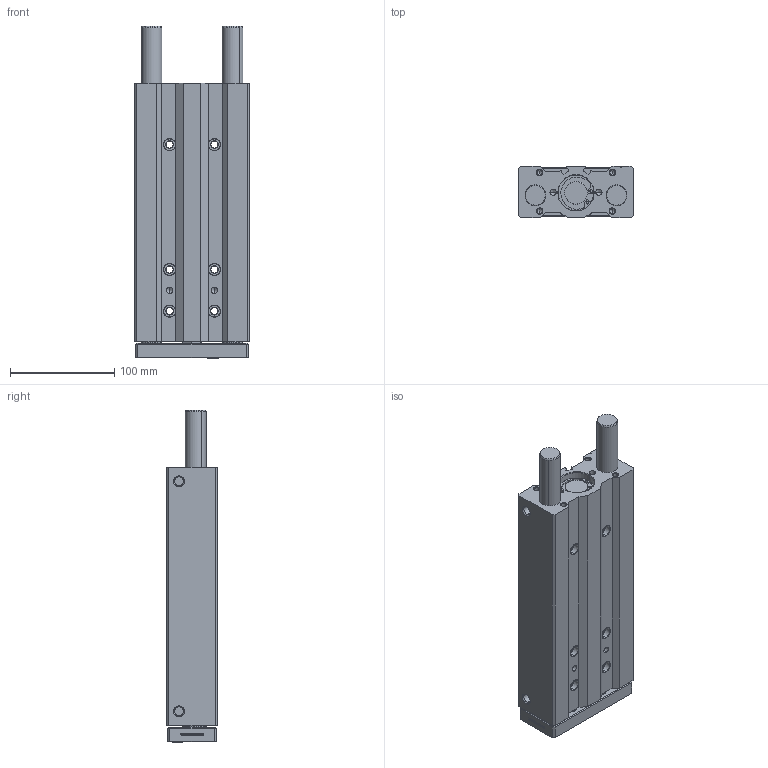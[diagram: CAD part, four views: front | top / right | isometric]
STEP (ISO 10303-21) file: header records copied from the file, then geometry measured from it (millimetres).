
FILE_DESCRIPTION (( 'STEP AP214' ), '1' );
FILE_NAME ('WGC-B-032-0200 (3D).STEP', '2018-12-14T15:37:30', ( 'Hidtek' ), ( '' ), 'SwSTEP 2.0', 'SolidWorks 2016', '' );
FILE_SCHEMA (( 'AUTOMOTIVE_DESIGN' ));
Length unit declared in the file: millimetre
Products named in the file (3): Group1^WGC-B-032-0200 (3D); WGC-B-032-0200 (3D); Group2^WGC-B-032-0200 (3D)
Assembly tree (2 placements, depth 2):
  WGC-B-032-0200 (3D)
    Group1^WGC-B-032-0200 (3D)
    Group2^WGC-B-032-0200 (3D)
Bounding box: 110 x 49 x 319 mm (x, y, z)
Volume: 1157024.5 mm3; surface area: 233733.2 mm2
Topology: 13 solids, 13 shells, 827 faces, 2037 edges, 1278 vertices
Faces by surface type: plane 332, cone 198, cylinder 192, bspline 105
Entity records: 32175 total; most frequent: CARTESIAN_POINT 10786, ORIENTED_EDGE 4002, DIRECTION 3796, EDGE_CURVE 2001, AXIS2_PLACEMENT_3D 1330, VERTEX_POINT 1278, VECTOR 1136, LINE 1136
